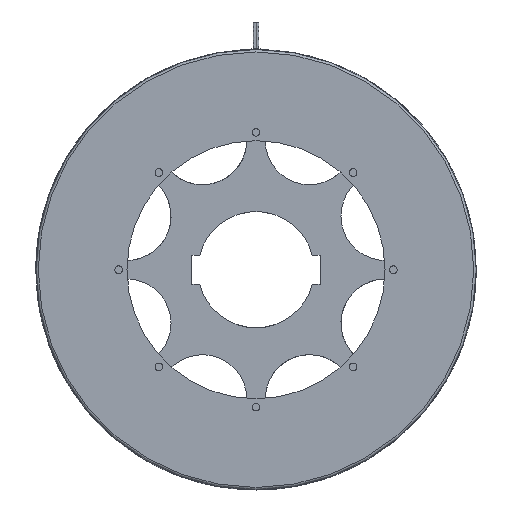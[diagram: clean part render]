
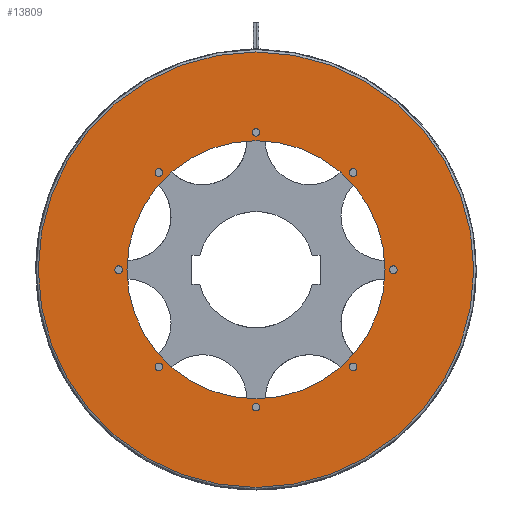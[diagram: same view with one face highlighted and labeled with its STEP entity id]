
A CAD part, left-side view. The second image highlights one B-rep face of the part: STEP entity #13809.
In plain terms, the highlighted planar face has unit normal (-1, 0, 0).
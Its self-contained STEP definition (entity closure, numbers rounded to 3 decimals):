
#150=FACE_BOUND('',#1309,.T.);
#151=FACE_BOUND('',#1310,.T.);
#152=FACE_BOUND('',#1311,.T.);
#153=FACE_BOUND('',#1312,.T.);
#154=FACE_BOUND('',#1313,.T.);
#155=FACE_BOUND('',#1314,.T.);
#156=FACE_BOUND('',#1315,.T.);
#157=FACE_BOUND('',#1316,.T.);
#158=FACE_BOUND('',#1317,.T.);
#321=PLANE('',#14562);
#611=FACE_OUTER_BOUND('',#1308,.T.);
#1308=EDGE_LOOP('',(#8755,#8756));
#1309=EDGE_LOOP('',(#8757,#8758));
#1310=EDGE_LOOP('',(#8759,#8760));
#1311=EDGE_LOOP('',(#8761,#8762));
#1312=EDGE_LOOP('',(#8763,#8764));
#1313=EDGE_LOOP('',(#8765,#8766));
#1314=EDGE_LOOP('',(#8767,#8768));
#1315=EDGE_LOOP('',(#8769,#8770));
#1316=EDGE_LOOP('',(#8771,#8772));
#1317=EDGE_LOOP('',(#8773,#8774));
#2211=CIRCLE('',#14563,299.5);
#2212=CIRCLE('',#14564,299.5);
#2213=CIRCLE('',#14565,5.25);
#2214=CIRCLE('',#14566,5.25);
#2215=CIRCLE('',#14567,5.25);
#2216=CIRCLE('',#14568,5.25);
#2217=CIRCLE('',#14569,5.25);
#2218=CIRCLE('',#14570,5.25);
#2219=CIRCLE('',#14571,5.25);
#2220=CIRCLE('',#14572,5.25);
#2221=CIRCLE('',#14573,5.25);
#2222=CIRCLE('',#14574,5.25);
#2223=CIRCLE('',#14575,5.25);
#2224=CIRCLE('',#14576,5.25);
#2225=CIRCLE('',#14577,5.25);
#2226=CIRCLE('',#14578,5.25);
#2227=CIRCLE('',#14579,5.25);
#2228=CIRCLE('',#14580,5.25);
#2229=CIRCLE('',#14581,177.5);
#2230=CIRCLE('',#14582,177.5);
#5100=VERTEX_POINT('',#21483);
#5101=VERTEX_POINT('',#21484);
#5102=VERTEX_POINT('',#21487);
#5103=VERTEX_POINT('',#21488);
#5104=VERTEX_POINT('',#21491);
#5105=VERTEX_POINT('',#21492);
#5106=VERTEX_POINT('',#21495);
#5107=VERTEX_POINT('',#21496);
#5108=VERTEX_POINT('',#21499);
#5109=VERTEX_POINT('',#21500);
#5110=VERTEX_POINT('',#21503);
#5111=VERTEX_POINT('',#21504);
#5112=VERTEX_POINT('',#21507);
#5113=VERTEX_POINT('',#21508);
#5114=VERTEX_POINT('',#21511);
#5115=VERTEX_POINT('',#21512);
#5116=VERTEX_POINT('',#21515);
#5117=VERTEX_POINT('',#21516);
#5118=VERTEX_POINT('',#21519);
#5119=VERTEX_POINT('',#21520);
#6560=EDGE_CURVE('',#5100,#5101,#2211,.T.);
#6561=EDGE_CURVE('',#5101,#5100,#2212,.T.);
#6562=EDGE_CURVE('',#5102,#5103,#2213,.T.);
#6563=EDGE_CURVE('',#5103,#5102,#2214,.T.);
#6564=EDGE_CURVE('',#5104,#5105,#2215,.T.);
#6565=EDGE_CURVE('',#5105,#5104,#2216,.T.);
#6566=EDGE_CURVE('',#5106,#5107,#2217,.T.);
#6567=EDGE_CURVE('',#5107,#5106,#2218,.T.);
#6568=EDGE_CURVE('',#5108,#5109,#2219,.T.);
#6569=EDGE_CURVE('',#5109,#5108,#2220,.T.);
#6570=EDGE_CURVE('',#5110,#5111,#2221,.T.);
#6571=EDGE_CURVE('',#5111,#5110,#2222,.T.);
#6572=EDGE_CURVE('',#5112,#5113,#2223,.T.);
#6573=EDGE_CURVE('',#5113,#5112,#2224,.T.);
#6574=EDGE_CURVE('',#5114,#5115,#2225,.T.);
#6575=EDGE_CURVE('',#5115,#5114,#2226,.T.);
#6576=EDGE_CURVE('',#5116,#5117,#2227,.T.);
#6577=EDGE_CURVE('',#5117,#5116,#2228,.T.);
#6578=EDGE_CURVE('',#5118,#5119,#2229,.T.);
#6579=EDGE_CURVE('',#5119,#5118,#2230,.T.);
#8755=ORIENTED_EDGE('',*,*,#6560,.F.);
#8756=ORIENTED_EDGE('',*,*,#6561,.F.);
#8757=ORIENTED_EDGE('',*,*,#6562,.T.);
#8758=ORIENTED_EDGE('',*,*,#6563,.T.);
#8759=ORIENTED_EDGE('',*,*,#6564,.T.);
#8760=ORIENTED_EDGE('',*,*,#6565,.T.);
#8761=ORIENTED_EDGE('',*,*,#6566,.T.);
#8762=ORIENTED_EDGE('',*,*,#6567,.T.);
#8763=ORIENTED_EDGE('',*,*,#6568,.T.);
#8764=ORIENTED_EDGE('',*,*,#6569,.T.);
#8765=ORIENTED_EDGE('',*,*,#6570,.T.);
#8766=ORIENTED_EDGE('',*,*,#6571,.T.);
#8767=ORIENTED_EDGE('',*,*,#6572,.T.);
#8768=ORIENTED_EDGE('',*,*,#6573,.T.);
#8769=ORIENTED_EDGE('',*,*,#6574,.T.);
#8770=ORIENTED_EDGE('',*,*,#6575,.T.);
#8771=ORIENTED_EDGE('',*,*,#6576,.T.);
#8772=ORIENTED_EDGE('',*,*,#6577,.T.);
#8773=ORIENTED_EDGE('',*,*,#6578,.F.);
#8774=ORIENTED_EDGE('',*,*,#6579,.F.);
#13809=ADVANCED_FACE('',(#611,#150,#151,#152,#153,#154,#155,#156,#157,#158),
#321,.T.);
#14562=AXIS2_PLACEMENT_3D('',#21482,#16592,#16593);
#14563=AXIS2_PLACEMENT_3D('',#21485,#16594,#16595);
#14564=AXIS2_PLACEMENT_3D('',#21486,#16596,#16597);
#14565=AXIS2_PLACEMENT_3D('',#21489,#16598,#16599);
#14566=AXIS2_PLACEMENT_3D('',#21490,#16600,#16601);
#14567=AXIS2_PLACEMENT_3D('',#21493,#16602,#16603);
#14568=AXIS2_PLACEMENT_3D('',#21494,#16604,#16605);
#14569=AXIS2_PLACEMENT_3D('',#21497,#16606,#16607);
#14570=AXIS2_PLACEMENT_3D('',#21498,#16608,#16609);
#14571=AXIS2_PLACEMENT_3D('',#21501,#16610,#16611);
#14572=AXIS2_PLACEMENT_3D('',#21502,#16612,#16613);
#14573=AXIS2_PLACEMENT_3D('',#21505,#16614,#16615);
#14574=AXIS2_PLACEMENT_3D('',#21506,#16616,#16617);
#14575=AXIS2_PLACEMENT_3D('',#21509,#16618,#16619);
#14576=AXIS2_PLACEMENT_3D('',#21510,#16620,#16621);
#14577=AXIS2_PLACEMENT_3D('',#21513,#16622,#16623);
#14578=AXIS2_PLACEMENT_3D('',#21514,#16624,#16625);
#14579=AXIS2_PLACEMENT_3D('',#21517,#16626,#16627);
#14580=AXIS2_PLACEMENT_3D('',#21518,#16628,#16629);
#14581=AXIS2_PLACEMENT_3D('',#21521,#16630,#16631);
#14582=AXIS2_PLACEMENT_3D('',#21522,#16632,#16633);
#16592=DIRECTION('center_axis',(-1.,0.,0.));
#16593=DIRECTION('ref_axis',(0.,0.,
1.));
#16594=DIRECTION('center_axis',(1.,0.,0.));
#16595=DIRECTION('ref_axis',(0.,-1.,0.));
#16596=DIRECTION('center_axis',(1.,0.,0.));
#16597=DIRECTION('ref_axis',(0.,-1.,0.));
#16598=DIRECTION('center_axis',(1.,0.,0.));
#16599=DIRECTION('ref_axis',(0.,0.,
1.));
#16600=DIRECTION('center_axis',(1.,0.,0.));
#16601=DIRECTION('ref_axis',(0.,0.,
1.));
#16602=DIRECTION('center_axis',(1.,0.,0.));
#16603=DIRECTION('ref_axis',(0.,0.,
1.));
#16604=DIRECTION('center_axis',(1.,0.,0.));
#16605=DIRECTION('ref_axis',(0.,0.,
1.));
#16606=DIRECTION('center_axis',(1.,0.,0.));
#16607=DIRECTION('ref_axis',(0.,0.,
1.));
#16608=DIRECTION('center_axis',(1.,0.,0.));
#16609=DIRECTION('ref_axis',(0.,0.,
1.));
#16610=DIRECTION('center_axis',(1.,0.,0.));
#16611=DIRECTION('ref_axis',(0.,0.,
1.));
#16612=DIRECTION('center_axis',(1.,0.,0.));
#16613=DIRECTION('ref_axis',(0.,0.,
1.));
#16614=DIRECTION('center_axis',(1.,0.,0.));
#16615=DIRECTION('ref_axis',(0.,0.,
1.));
#16616=DIRECTION('center_axis',(1.,0.,0.));
#16617=DIRECTION('ref_axis',(0.,0.,
1.));
#16618=DIRECTION('center_axis',(1.,0.,0.));
#16619=DIRECTION('ref_axis',(0.,0.,
1.));
#16620=DIRECTION('center_axis',(1.,0.,0.));
#16621=DIRECTION('ref_axis',(0.,0.,
1.));
#16622=DIRECTION('center_axis',(1.,0.,0.));
#16623=DIRECTION('ref_axis',(0.,0.,
1.));
#16624=DIRECTION('center_axis',(1.,0.,0.));
#16625=DIRECTION('ref_axis',(0.,0.,
1.));
#16626=DIRECTION('center_axis',(1.,0.,0.));
#16627=DIRECTION('ref_axis',(0.,0.,
1.));
#16628=DIRECTION('center_axis',(1.,0.,0.));
#16629=DIRECTION('ref_axis',(0.,0.,
1.));
#16630=DIRECTION('center_axis',(-1.,0.,0.));
#16631=DIRECTION('ref_axis',(0.,1.,0.));
#16632=DIRECTION('center_axis',(-1.,0.,0.));
#16633=DIRECTION('ref_axis',(0.,1.,0.));
#21482=CARTESIAN_POINT('Origin',(-39.2,240.,0.));
#21483=CARTESIAN_POINT('',(-39.2,299.5,0.));
#21484=CARTESIAN_POINT('',(-39.2,0.,-299.5));
#21485=CARTESIAN_POINT('Origin',(-39.2,0.,
0.));
#21486=CARTESIAN_POINT('Origin',(-39.2,0.,
0.));
#21487=CARTESIAN_POINT('',(-39.2,-189.,5.25));
#21488=CARTESIAN_POINT('',(-39.2,-189.,-5.25));
#21489=CARTESIAN_POINT('Origin',(-39.2,-189.,0.));
#21490=CARTESIAN_POINT('Origin',(-39.2,-189.,0.));
#21491=CARTESIAN_POINT('',(-39.2,0.,-183.75));
#21492=CARTESIAN_POINT('',(-39.2,0.,-194.25));
#21493=CARTESIAN_POINT('Origin',(-39.2,0.,
-189.));
#21494=CARTESIAN_POINT('Origin',(-39.2,0.,
-189.));
#21495=CARTESIAN_POINT('',(-39.2,189.,5.25));
#21496=CARTESIAN_POINT('',(-39.2,189.,-5.25));
#21497=CARTESIAN_POINT('Origin',(-39.2,189.,0.));
#21498=CARTESIAN_POINT('Origin',(-39.2,189.,0.));
#21499=CARTESIAN_POINT('',(-39.2,0.,194.25));
#21500=CARTESIAN_POINT('',(-39.2,0.,183.75));
#21501=CARTESIAN_POINT('Origin',(-39.2,0.,
189.));
#21502=CARTESIAN_POINT('Origin',(-39.2,0.,
189.));
#21503=CARTESIAN_POINT('',(-39.2,133.643,138.893));
#21504=CARTESIAN_POINT('',(-39.2,133.643,128.393));
#21505=CARTESIAN_POINT('Origin',(-39.2,133.643,133.643));
#21506=CARTESIAN_POINT('Origin',(-39.2,133.643,133.643));
#21507=CARTESIAN_POINT('',(-39.2,133.643,-128.393));
#21508=CARTESIAN_POINT('',(-39.2,133.643,-138.893));
#21509=CARTESIAN_POINT('Origin',(-39.2,133.643,-133.643));
#21510=CARTESIAN_POINT('Origin',(-39.2,133.643,-133.643));
#21511=CARTESIAN_POINT('',(-39.2,-133.643,-128.393));
#21512=CARTESIAN_POINT('',(-39.2,-133.643,-138.893));
#21513=CARTESIAN_POINT('Origin',(-39.2,-133.643,-133.643));
#21514=CARTESIAN_POINT('Origin',(-39.2,-133.643,-133.643));
#21515=CARTESIAN_POINT('',(-39.2,-133.643,138.893));
#21516=CARTESIAN_POINT('',(-39.2,-133.643,128.393));
#21517=CARTESIAN_POINT('Origin',(-39.2,-133.643,133.643));
#21518=CARTESIAN_POINT('Origin',(-39.2,-133.643,133.643));
#21519=CARTESIAN_POINT('',(-39.2,177.5,0.));
#21520=CARTESIAN_POINT('',(-39.2,-177.5,0.));
#21521=CARTESIAN_POINT('Origin',(-39.2,0.,
0.));
#21522=CARTESIAN_POINT('Origin',(-39.2,0.,
0.));
